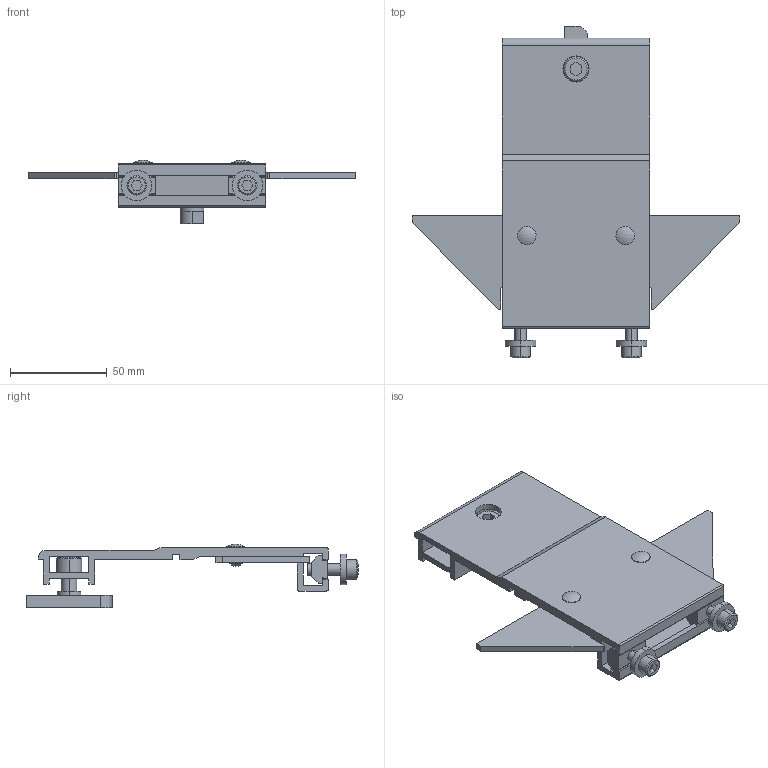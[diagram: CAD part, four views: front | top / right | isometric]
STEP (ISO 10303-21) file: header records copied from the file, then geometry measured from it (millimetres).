
FILE_DESCRIPTION((''),'2;1');
FILE_NAME('350898_ASM','2023-03-03T',('jenni.wallner'),(''),'PRO/ENGINEER BY PARAMETRIC TECHNOLOGY CORPORATION, 2012420','PRO/ENGINEER BY PARAMETRIC TECHNOLOGY CORPORATION, 2012420','');
FILE_SCHEMA(('CONFIG_CONTROL_DESIGN'));
Length unit declared in the file: inch
Products named in the file (10): 605279P; 914-006; 350534_CAE; 639971M_CAE; 350897_CAE; X920620M; X920816M; 350533_CAE; ASM0001_ASM; 350898_ASM
Assembly tree (13 placements, depth 3):
  350898_ASM
    ASM0001_ASM
      605279P  x2
      914-006  x2
      350534_CAE
      639971M_CAE  x2
      350897_CAE
      X920620M  x2
      X920816M
      350533_CAE
Bounding box: 168.91 x 171.46 x 32.77 mm (x, y, z)
Volume: 97954.5 mm3; surface area: 58101.2 mm2
Topology: 12 solids, 12 shells, 221 faces, 555 edges, 364 vertices
Faces by surface type: plane 120, cylinder 83, cone 12, bspline 4, sphere 2
Entity records: 5258 total; most frequent: CARTESIAN_POINT 947, DIRECTION 911, ORIENTED_EDGE 810, EDGE_CURVE 405, AXIS2_PLACEMENT_3D 317, VECTOR 277, LINE 277, VERTEX_POINT 267
